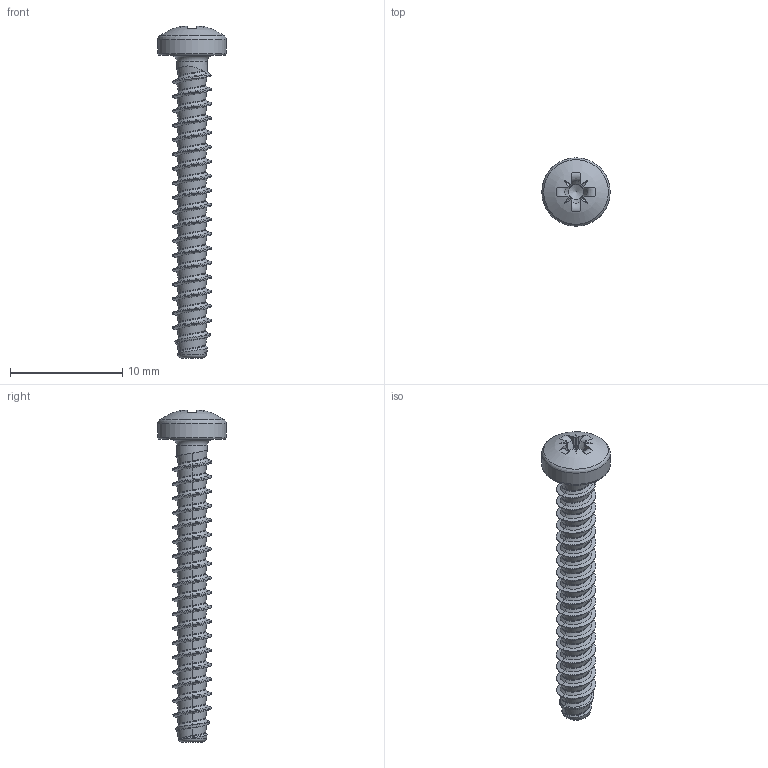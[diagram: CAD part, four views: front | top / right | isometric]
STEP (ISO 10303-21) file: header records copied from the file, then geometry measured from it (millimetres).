
FILE_DESCRIPTION(/* description */ (''),/* implementation_level */ '2;1');
FILE_NAME(/* name */ 'KN6032-STSplus-35x27-Z2.step',/* time_stamp */ '2017-10-10T15:56:58+02:00',/* author */ (''),/* organization */ (''),/* preprocessor_version */ 'ST-DEVELOPER v16',/* originating_system */ 'SIEMENS PLM Software NX 10.0',/* authorisation */ '');
FILE_SCHEMA (('AUTOMOTIVE_DESIGN { 1 0 10303 214 3 1 1 1 }'));
Length unit declared in the file: millimetre
Products named in the file (1): KN6032-STSplus-35x27-Z2
Bounding box: 6.1 x 6.1 x 29.63 mm (x, y, z)
Volume: 216.7 mm3; surface area: 440.5 mm2
Topology: 1 solids, 1 shells, 173 faces, 407 edges, 236 vertices
Faces by surface type: bspline 104, plane 42, cylinder 11, torus 8, cone 7, sphere 1
Full cylindrical faces by diameter (mm): 2.73 x1, 6.1 x1
Entity records: 10456 total; most frequent: CARTESIAN_POINT 7220, ORIENTED_EDGE 786, DIRECTION 410, EDGE_CURVE 393, VERTEX_POINT 231, EDGE_LOOP 181, B_SPLINE_CURVE_WITH_KNOTS 178, ADVANCED_FACE 173
